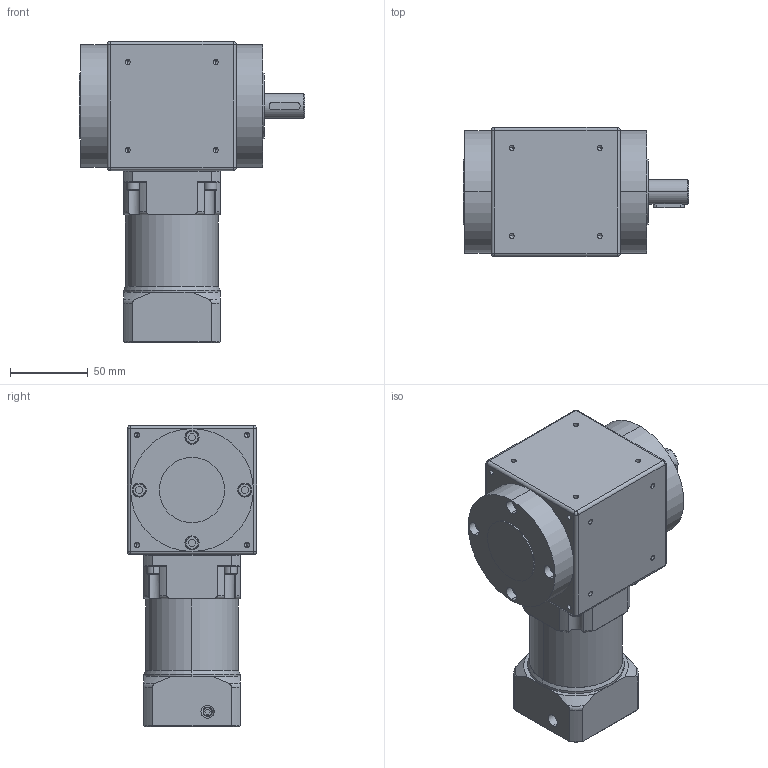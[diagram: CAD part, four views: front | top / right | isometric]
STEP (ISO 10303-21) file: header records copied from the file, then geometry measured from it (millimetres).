
FILE_DESCRIPTION (( 'STEP AP214' ), '1' );
FILE_NAME ('GBPHR-0602-SS.STEP', '2015-07-07T18:02:52', ( '' ), ( '' ), 'SwSTEP 2.0', 'SolidWorks 2015', '' );
FILE_SCHEMA (( 'AUTOMOTIVE_DESIGN' ));
Length unit declared in the file: millimetre
Products named in the file (4): 1_B18.3.1M - 5 x 0.8 x 16 Hex SHCS -- 16SHX; GBPHR-060X-SS Series_GBPH-0602-NS; GBPHR-060X-SX_GBPHR-060X-SX; GBPHR-0602-SS
Assembly tree (6 placements, depth 2):
  GBPHR-0602-SS
    GBPHR-060X-SX_GBPHR-060X-SX
    GBPHR-060X-SS Series_GBPH-0602-NS
    1_B18.3.1M - 5 x 0.8 x 16 Hex SHCS -- 16SHX  x4
Bounding box: 145 x 83 x 193.51 mm (x, y, z)
Volume: 1095025.3 mm3; surface area: 106601.8 mm2
Topology: 6 solids, 6 shells, 1059 faces, 2631 edges, 1595 vertices
Faces by surface type: cone 452, cylinder 342, plane 237, torus 20, sphere 8
Entity records: 23404 total; most frequent: CARTESIAN_POINT 3977, DIRECTION 3319, ORIENTED_EDGE 2970, EDGE_CURVE 1485, AXIS2_PLACEMENT_3D 1290, VERTEX_POINT 926, VECTOR 739, LINE 739
